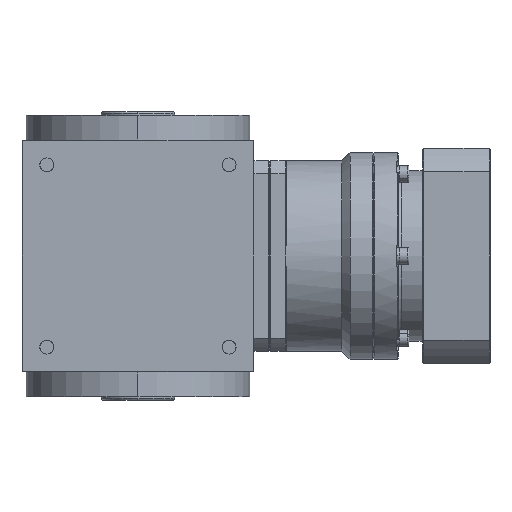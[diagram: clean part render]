
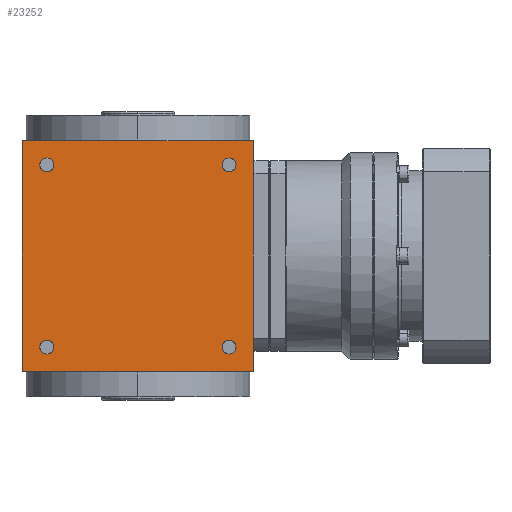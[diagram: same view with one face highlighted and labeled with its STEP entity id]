
A CAD part, left-side view. The second image highlights one B-rep face of the part: STEP entity #23252.
In plain terms, the highlighted planar face has unit normal (-1, 0, 0).
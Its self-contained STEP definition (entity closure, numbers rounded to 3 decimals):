
#270 = FACE_BOUND ( 'NONE', #4160, .T. ) ;
#691 = AXIS2_PLACEMENT_3D ( 'NONE', #778, #2237, #26555 ) ;
#739 = CARTESIAN_POINT ( 'NONE',  ( -70., 70., 69.5 ) ) ;
#778 = CARTESIAN_POINT ( 'NONE',  ( -70., -55., 55. ) ) ;
#865 = LINE ( 'NONE', #11526, #26495 ) ;
#1593 = VERTEX_POINT ( 'NONE', #32399 ) ;
#1662 = ORIENTED_EDGE ( 'NONE', *, *, #19145, .T. ) ;
#1916 = AXIS2_PLACEMENT_3D ( 'NONE', #5884, #5714, #21617 ) ;
#2237 = DIRECTION ( 'NONE',  ( 1., 0., 0. ) ) ;
#2303 = DIRECTION ( 'NONE',  ( 0., 0., 1. ) ) ;
#3203 = CARTESIAN_POINT ( 'NONE',  ( -70., 55., -59.2 ) ) ;
#3639 = CARTESIAN_POINT ( 'NONE',  ( -70., -55., -59.2 ) ) ;
#3671 = DIRECTION ( 'NONE',  ( 0., -1., 0. ) ) ;
#4122 = ORIENTED_EDGE ( 'NONE', *, *, #6406, .T. ) ;
#4160 = EDGE_LOOP ( 'NONE', ( #5034, #14944 ) ) ;
#4495 = CARTESIAN_POINT ( 'NONE',  ( -70., -55., 50.8 ) ) ;
#5034 = ORIENTED_EDGE ( 'NONE', *, *, #12000, .T. ) ;
#5276 = CARTESIAN_POINT ( 'NONE',  ( -70., 55., 59.2 ) ) ;
#5290 = DIRECTION ( 'NONE',  ( 1., 0., 0. ) ) ;
#5714 = DIRECTION ( 'NONE',  ( 1., 0., 0. ) ) ;
#5884 = CARTESIAN_POINT ( 'NONE',  ( -70., 55., -55. ) ) ;
#6087 = AXIS2_PLACEMENT_3D ( 'NONE', #13953, #30261, #24461 ) ;
#6169 = DIRECTION ( 'NONE',  ( 0., 1., 0. ) ) ;
#6406 = EDGE_CURVE ( 'NONE', #23334, #16707, #12490, .T. ) ;
#7764 = EDGE_LOOP ( 'NONE', ( #4122, #11608, #21471, #12619 ) ) ;
#8134 = DIRECTION ( 'NONE',  ( -1., 0., 0. ) ) ;
#8659 = CARTESIAN_POINT ( 'NONE',  ( -70., -55., 55. ) ) ;
#9475 = VERTEX_POINT ( 'NONE', #3203 ) ;
#10244 = FACE_BOUND ( 'NONE', #30723, .T. ) ;
#10428 = ORIENTED_EDGE ( 'NONE', *, *, #11962, .T. ) ;
#10510 = CARTESIAN_POINT ( 'NONE',  ( -70., -55., -55. ) ) ;
#10759 = CARTESIAN_POINT ( 'NONE',  ( -70., 70., -70. ) ) ;
#11463 = AXIS2_PLACEMENT_3D ( 'NONE', #31700, #32213, #2303 ) ;
#11480 = LINE ( 'NONE', #32843, #27343 ) ;
#11526 = CARTESIAN_POINT ( 'NONE',  ( -70., 70., -69.5 ) ) ;
#11608 = ORIENTED_EDGE ( 'NONE', *, *, #21509, .T. ) ;
#11652 = DIRECTION ( 'NONE',  ( 0., 0., 1. ) ) ;
#11953 = CIRCLE ( 'NONE', #1916, 4.2 ) ;
#11962 = EDGE_CURVE ( 'NONE', #30419, #9475, #11953, .T. ) ;
#12000 = EDGE_CURVE ( 'NONE', #32398, #32110, #20334, .T. ) ;
#12490 = LINE ( 'NONE', #31752, #17377 ) ;
#12619 = ORIENTED_EDGE ( 'NONE', *, *, #21004, .T. ) ;
#13031 = AXIS2_PLACEMENT_3D ( 'NONE', #8659, #19340, #30038 ) ;
#13034 = CIRCLE ( 'NONE', #23676, 4.2 ) ;
#13536 = DIRECTION ( 'NONE',  ( 0., 0., 1. ) ) ;
#13700 = DIRECTION ( 'NONE',  ( 0., 0., 1. ) ) ;
#13953 = CARTESIAN_POINT ( 'NONE',  ( -70., -55., -55. ) ) ;
#14055 = CARTESIAN_POINT ( 'NONE',  ( -70., 55., 55. ) ) ;
#14624 = CIRCLE ( 'NONE', #691, 4.2 ) ;
#14944 = ORIENTED_EDGE ( 'NONE', *, *, #19097, .T. ) ;
#15180 = CIRCLE ( 'NONE', #16316, 4.2 ) ;
#15244 = VERTEX_POINT ( 'NONE', #3639 ) ;
#15691 = ORIENTED_EDGE ( 'NONE', *, *, #26384, .T. ) ;
#16316 = AXIS2_PLACEMENT_3D ( 'NONE', #25596, #27731, #31033 ) ;
#16707 = VERTEX_POINT ( 'NONE', #34561 ) ;
#17003 = LINE ( 'NONE', #739, #32038 ) ;
#17095 = EDGE_LOOP ( 'NONE', ( #24536, #15691 ) ) ;
#17377 = VECTOR ( 'NONE', #23864, 1000. ) ;
#17678 = CARTESIAN_POINT ( 'NONE',  ( -70., 55., 50.8 ) ) ;
#18614 = ORIENTED_EDGE ( 'NONE', *, *, #21752, .T. ) ;
#18987 = CARTESIAN_POINT ( 'NONE',  ( -70., 69.5, 69.5 ) ) ;
#19097 = EDGE_CURVE ( 'NONE', #32110, #32398, #14624, .T. ) ;
#19145 = EDGE_CURVE ( 'NONE', #9475, #30419, #15180, .T. ) ;
#19340 = DIRECTION ( 'NONE',  ( 1., 0., 0. ) ) ;
#20334 = CIRCLE ( 'NONE', #13031, 4.2 ) ;
#20921 = FACE_BOUND ( 'NONE', #17095, .T. ) ;
#21004 = EDGE_CURVE ( 'NONE', #32189, #23334, #17003, .T. ) ;
#21471 = ORIENTED_EDGE ( 'NONE', *, *, #26823, .T. ) ;
#21509 = EDGE_CURVE ( 'NONE', #16707, #1593, #865, .T. ) ;
#21617 = DIRECTION ( 'NONE',  ( 0., 0., 1. ) ) ;
#21752 = EDGE_CURVE ( 'NONE', #34629, #22426, #13034, .T. ) ;
#22033 = CARTESIAN_POINT ( 'NONE',  ( -70., -55., -50.8 ) ) ;
#22426 = VERTEX_POINT ( 'NONE', #5276 ) ;
#22564 = VERTEX_POINT ( 'NONE', #22033 ) ;
#23252 = ADVANCED_FACE ( 'NONE', ( #23889, #20921, #10244, #270, #31605 ), #28816, .T. ) ;
#23334 = VERTEX_POINT ( 'NONE', #18987 ) ;
#23676 = AXIS2_PLACEMENT_3D ( 'NONE', #14055, #24214, #13700 ) ;
#23864 = DIRECTION ( 'NONE',  ( 0., 0., -1. ) ) ;
#23889 = FACE_BOUND ( 'NONE', #28144, .T. ) ;
#23978 = DIRECTION ( 'NONE',  ( 0., 0., 1. ) ) ;
#24214 = DIRECTION ( 'NONE',  ( 1., 0., 0. ) ) ;
#24461 = DIRECTION ( 'NONE',  ( 0., 0., 1. ) ) ;
#24536 = ORIENTED_EDGE ( 'NONE', *, *, #34317, .T. ) ;
#25596 = CARTESIAN_POINT ( 'NONE',  ( -70., 55., -55. ) ) ;
#26002 = CARTESIAN_POINT ( 'NONE',  ( -70., -69.5, 69.5 ) ) ;
#26384 = EDGE_CURVE ( 'NONE', #15244, #22564, #34026, .T. ) ;
#26495 = VECTOR ( 'NONE', #3671, 1000. ) ;
#26555 = DIRECTION ( 'NONE',  ( 0., 0., 1. ) ) ;
#26823 = EDGE_CURVE ( 'NONE', #1593, #32189, #11480, .T. ) ;
#27343 = VECTOR ( 'NONE', #11652, 1000. ) ;
#27731 = DIRECTION ( 'NONE',  ( 1., 0., 0. ) ) ;
#27750 = CARTESIAN_POINT ( 'NONE',  ( -70., -55., 59.2 ) ) ;
#28144 = EDGE_LOOP ( 'NONE', ( #33377, #18614 ) ) ;
#28296 = AXIS2_PLACEMENT_3D ( 'NONE', #10759, #8134, #13536 ) ;
#28816 = PLANE ( 'NONE',  #28296 ) ;
#30038 = DIRECTION ( 'NONE',  ( 0., 0., 1. ) ) ;
#30261 = DIRECTION ( 'NONE',  ( 1., 0., 0. ) ) ;
#30419 = VERTEX_POINT ( 'NONE', #30678 ) ;
#30563 = AXIS2_PLACEMENT_3D ( 'NONE', #10510, #5290, #23978 ) ;
#30678 = CARTESIAN_POINT ( 'NONE',  ( -70., 55., -50.8 ) ) ;
#30723 = EDGE_LOOP ( 'NONE', ( #10428, #1662 ) ) ;
#31033 = DIRECTION ( 'NONE',  ( 0., 0., 1. ) ) ;
#31605 = FACE_OUTER_BOUND ( 'NONE', #7764, .T. ) ;
#31700 = CARTESIAN_POINT ( 'NONE',  ( -70., 55., 55. ) ) ;
#31752 = CARTESIAN_POINT ( 'NONE',  ( -70., 69.5, -70. ) ) ;
#32038 = VECTOR ( 'NONE', #6169, 1000. ) ;
#32110 = VERTEX_POINT ( 'NONE', #4495 ) ;
#32189 = VERTEX_POINT ( 'NONE', #26002 ) ;
#32213 = DIRECTION ( 'NONE',  ( 1., 0., 0. ) ) ;
#32398 = VERTEX_POINT ( 'NONE', #27750 ) ;
#32399 = CARTESIAN_POINT ( 'NONE',  ( -70., -69.5, -69.5 ) ) ;
#32843 = CARTESIAN_POINT ( 'NONE',  ( -70., -69.5, -70. ) ) ;
#33050 = EDGE_CURVE ( 'NONE', #22426, #34629, #34378, .T. ) ;
#33377 = ORIENTED_EDGE ( 'NONE', *, *, #33050, .T. ) ;
#34026 = CIRCLE ( 'NONE', #6087, 4.2 ) ;
#34317 = EDGE_CURVE ( 'NONE', #22564, #15244, #34459, .T. ) ;
#34378 = CIRCLE ( 'NONE', #11463, 4.2 ) ;
#34459 = CIRCLE ( 'NONE', #30563, 4.2 ) ;
#34561 = CARTESIAN_POINT ( 'NONE',  ( -70., 69.5, -69.5 ) ) ;
#34629 = VERTEX_POINT ( 'NONE', #17678 ) ;
